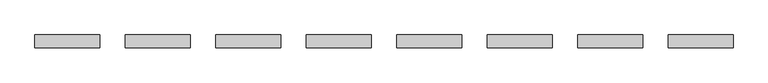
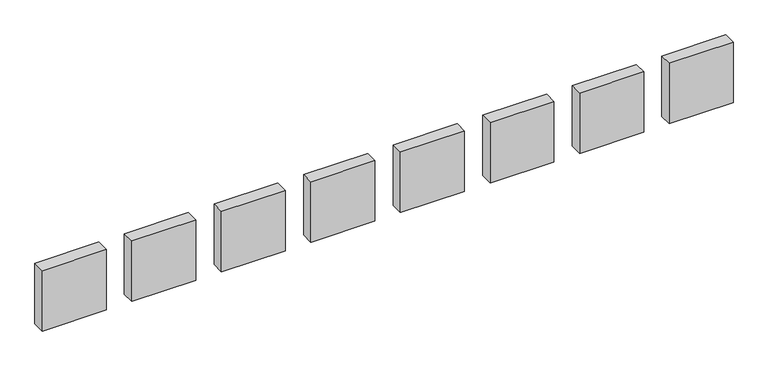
"""IFC4 building model written with IfcOpenShell, lengths in millimetres: proxy geometry, 営_庁舎名サイン : 庁舎名サイン."""

from ifc_helpers import new_model, si_unit, origin, origin_with_axes, place, context, project, spatial, polyline, outline, extrude, source, transform, mapped, element, save


def specialty_equipment_32afc5d8(model_context):
    return source(origin(), model_context, "Body", "SweptSolid", [
        extrude(outline(polyline([(500.0, -100.0), (0.0, -100.0), (0.0, 0.0), (500.0, 0.0), (500.0, -100.0)])), origin_with_axes(), (0.0, 0.0, 1.0), 500.0),
        extrude(outline(polyline([(1200.0, -100.0), (700.0, -100.0), (700.0, 0.0), (1200.0, 0.0), (1200.0, -100.0)])), origin_with_axes(), (0.0, 0.0, 1.0), 500.0),
        extrude(outline(polyline([(1900.0, -100.0), (1400.0, -100.0), (1400.0, 0.0), (1900.0, 0.0), (1900.0, -100.0)])), origin_with_axes(), (0.0, 0.0, 1.0), 500.0),
        extrude(outline(polyline([(2600.0, -100.0), (2100.0, -100.0), (2100.0, 0.0), (2600.0, 0.0), (2600.0, -100.0)])), origin_with_axes(), (0.0, 0.0, 1.0), 500.0),
        extrude(outline(polyline([(3300.0, -100.0), (2800.0, -100.0), (2800.0, 0.0), (3300.0, 0.0), (3300.0, -100.0)])), origin_with_axes(), (0.0, 0.0, 1.0), 500.0),
        extrude(outline(polyline([(4000.0, -100.0), (3500.0, -100.0), (3500.0, 0.0), (4000.0, 0.0), (4000.0, -100.0)])), origin_with_axes(), (0.0, 0.0, 1.0), 500.0),
        extrude(outline(polyline([(4700.0, -100.0), (4200.0, -100.0), (4200.0, 0.0), (4700.0, 0.0), (4700.0, -100.0)])), origin_with_axes(), (0.0, 0.0, 1.0), 500.0),
        extrude(outline(polyline([(5400.0, -100.0), (4900.0, -100.0), (4900.0, 0.0), (5400.0, 0.0), (5400.0, -100.0)])), origin_with_axes(), (0.0, 0.0, 1.0), 500.0),
    ])


if __name__ == "__main__":
    model = new_model("IFC4")
    model_context = context("Model", 3, world=origin())
    ifc_project = project(units=[si_unit("LENGTHUNIT", "METRE", prefix="MILLI")], contexts=[model_context])
    site = spatial("IfcSite", under=ifc_project)
    building = spatial("IfcBuilding", under=site)
    placement = place(None, origin())
    specialty_equipment_shape = specialty_equipment_32afc5d8(model_context)
    element("IfcBuildingElementProxy", 1, Name="営_庁舎名サイン : 庁舎名サイン", ObjectType="営_庁舎名サイン : 庁舎名サイン", at=placement, inside=building, context=model_context, shape_type="MappedRepresentation", body=[
        mapped(specialty_equipment_shape, transform((0.0, 0.0, 0.0), x_axis=(1.0, 0.0, 0.0), y_axis=(0.0, 1.0, 0.0), z_axis=(0.0, 0.0, 1.0))),
    ])
    save(model, "model.ifc")
